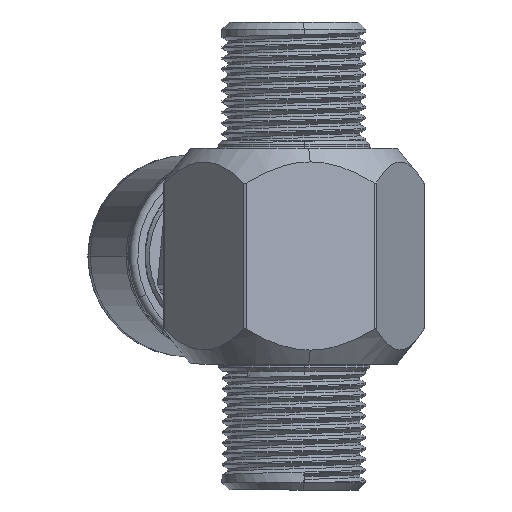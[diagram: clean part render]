
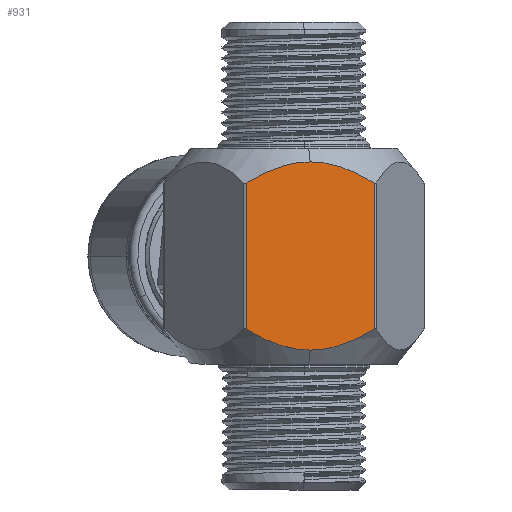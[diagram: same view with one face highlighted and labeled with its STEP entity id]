
A CAD part, front view. The second image highlights one B-rep face of the part: STEP entity #931.
In plain terms, the highlighted planar face has unit normal (0.143, -0.99, 0) as drawn and (1, 0, 0) by its records, which use the part's own axes.
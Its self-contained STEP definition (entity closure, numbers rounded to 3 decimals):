
#152 = VERTEX_POINT ( 'NONE', #13265 ) ;
#417 = CARTESIAN_POINT ( 'NONE',  ( 15.9, -2.002, 12.924 ) ) ;
#766 = B_SPLINE_CURVE_WITH_KNOTS ( 'NONE', 3,
 ( #5884, #9204, #18126, #7500, #7712, #9420, #18227, #417, #9523, #10922, #14483, #2564 ),
 .UNSPECIFIED., .F., .F.,
 ( 4, 2, 2, 2, 2, 4 ),
 ( 0.026, 0.029, 0.031, 0.033, 0.035, 0.036 ),
 .UNSPECIFIED. ) ;
#931 = ADVANCED_FACE ( 'NONE', ( #18893 ), #17399, .F. ) ;
#951 = CARTESIAN_POINT ( 'NONE',  ( 15.9, 3.156, 12.692 ) ) ;
#1167 = CARTESIAN_POINT ( 'NONE',  ( 15.9, 2.002, -12.924 ) ) ;
#1285 = CARTESIAN_POINT ( 'NONE',  ( 15.9, 6.156, -11.653 ) ) ;
#1706 = CARTESIAN_POINT ( 'NONE',  ( 15.9, 8.958, -33. ) ) ;
#1956 = VECTOR ( 'NONE', #8773, 1000. ) ;
#2106 = CARTESIAN_POINT ( 'NONE',  ( 15.9, -8.958, 10.137 ) ) ;
#2426 = EDGE_CURVE ( 'NONE', #11180, #152, #18333, .T. ) ;
#2445 = EDGE_LOOP ( 'NONE', ( #11733, #3083, #14176, #2892, #3754, #7109 ) ) ;
#2543 = CARTESIAN_POINT ( 'NONE',  ( 15.9, 0., 13.075 ) ) ;
#2564 = CARTESIAN_POINT ( 'NONE',  ( 15.9, 0., 13.075 ) ) ;
#2648 = CARTESIAN_POINT ( 'NONE',  ( 15.9, 3.181, -12.704 ) ) ;
#2704 = CARTESIAN_POINT ( 'NONE',  ( 15.9, -3.156, -12.692 ) ) ;
#2796 = CARTESIAN_POINT ( 'NONE',  ( 15.9, -8.958, -33. ) ) ;
#2871 = CARTESIAN_POINT ( 'NONE',  ( 15.9, 8.277, -10.555 ) ) ;
#2892 = ORIENTED_EDGE ( 'NONE', *, *, #21983, .F. ) ;
#2913 = AXIS2_PLACEMENT_3D ( 'NONE', #4939, #13849, #3110 ) ;
#3049 = CARTESIAN_POINT ( 'NONE',  ( 15.9, -0.794, -13.075 ) ) ;
#3083 = ORIENTED_EDGE ( 'NONE', *, *, #2426, .F. ) ;
#3110 = DIRECTION ( 'NONE',  ( 0., -1., 0. ) ) ;
#3344 = VERTEX_POINT ( 'NONE', #8957 ) ;
#3754 = ORIENTED_EDGE ( 'NONE', *, *, #7983, .F. ) ;
#4138 = CARTESIAN_POINT ( 'NONE',  ( 15.9, 0., -13.075 ) ) ;
#4257 = CARTESIAN_POINT ( 'NONE',  ( 15.9, 3.928, 12.483 ) ) ;
#4276 = B_SPLINE_CURVE_WITH_KNOTS ( 'NONE', 3,
 ( #18549, #2871, #11563, #1285, #6417, #11328, #2648, #1167, #13287, #11446, #16812, #18432 ),
 .UNSPECIFIED., .F., .F.,
 ( 4, 2, 2, 2, 2, 4 ),
 ( 0.026, 0.029, 0.031, 0.033, 0.035, 0.036 ),
 .UNSPECIFIED. ) ;
#4753 = CARTESIAN_POINT ( 'NONE',  ( 15.9, -4.307, -12.363 ) ) ;
#4939 = CARTESIAN_POINT ( 'NONE',  ( 15.9, -9.18, 15. ) ) ;
#5239 = LINE ( 'NONE', #1706, #1956 ) ;
#5884 = CARTESIAN_POINT ( 'NONE',  ( 15.9, -8.958, 10.137 ) ) ;
#6417 = CARTESIAN_POINT ( 'NONE',  ( 15.9, 5.43, -11.966 ) ) ;
#6472 = CARTESIAN_POINT ( 'NONE',  ( 15.9, 0., -13.075 ) ) ;
#7109 = ORIENTED_EDGE ( 'NONE', *, *, #11576, .F. ) ;
#7500 = CARTESIAN_POINT ( 'NONE',  ( 15.9, -6.156, 11.653 ) ) ;
#7712 = CARTESIAN_POINT ( 'NONE',  ( 15.9, -5.43, 11.966 ) ) ;
#7807 = CARTESIAN_POINT ( 'NONE',  ( 15.9, 7.581, 10.946 ) ) ;
#7983 = EDGE_CURVE ( 'NONE', #3344, #18178, #18579, .T. ) ;
#8024 = CARTESIAN_POINT ( 'NONE',  ( 15.9, 4.307, 12.363 ) ) ;
#8137 = CARTESIAN_POINT ( 'NONE',  ( 15.9, 2.762, 12.783 ) ) ;
#8476 = EDGE_CURVE ( 'NONE', #152, #20360, #22227, .T. ) ;
#8773 = DIRECTION ( 'NONE',  ( 0., 0., -1. ) ) ;
#8957 = CARTESIAN_POINT ( 'NONE',  ( 15.9, 0., 13.075 ) ) ;
#9204 = CARTESIAN_POINT ( 'NONE',  ( 15.9, -8.277, 10.555 ) ) ;
#9420 = CARTESIAN_POINT ( 'NONE',  ( 15.9, -3.943, 12.492 ) ) ;
#9523 = CARTESIAN_POINT ( 'NONE',  ( 15.9, -1.6, 12.981 ) ) ;
#10014 = CARTESIAN_POINT ( 'NONE',  ( 15.9, -3.928, -12.483 ) ) ;
#10922 = CARTESIAN_POINT ( 'NONE',  ( 15.9, -0.798, 13.056 ) ) ;
#11125 = CARTESIAN_POINT ( 'NONE',  ( 15.9, 1.584, 13. ) ) ;
#11180 = VERTEX_POINT ( 'NONE', #4138 ) ;
#11252 = DIRECTION ( 'NONE',  ( 0., 0., 1. ) ) ;
#11328 = CARTESIAN_POINT ( 'NONE',  ( 15.9, 3.943, -12.492 ) ) ;
#11446 = CARTESIAN_POINT ( 'NONE',  ( 15.9, 0.798, -13.056 ) ) ;
#11452 = CARTESIAN_POINT ( 'NONE',  ( 15.9, 0.794, 13.075 ) ) ;
#11563 = CARTESIAN_POINT ( 'NONE',  ( 15.9, 7.578, -10.948 ) ) ;
#11576 = EDGE_CURVE ( 'NONE', #20360, #3344, #766, .T. ) ;
#11725 = CARTESIAN_POINT ( 'NONE',  ( 15.9, -8.278, -10.554 ) ) ;
#11733 = ORIENTED_EDGE ( 'NONE', *, *, #8476, .F. ) ;
#12213 = VECTOR ( 'NONE', #11252, 1000. ) ;
#12219 = EDGE_CURVE ( 'NONE', #15160, #11180, #4276, .T. ) ;
#13265 = CARTESIAN_POINT ( 'NONE',  ( 15.9, -8.958, -10.137 ) ) ;
#13287 = CARTESIAN_POINT ( 'NONE',  ( 15.9, 1.6, -12.981 ) ) ;
#13849 = DIRECTION ( 'NONE',  ( -1., 0., 0. ) ) ;
#14096 = CARTESIAN_POINT ( 'NONE',  ( 15.9, 8.958, -10.137 ) ) ;
#14176 = ORIENTED_EDGE ( 'NONE', *, *, #12219, .F. ) ;
#14483 = CARTESIAN_POINT ( 'NONE',  ( 15.9, -0.399, 13.075 ) ) ;
#14783 = CARTESIAN_POINT ( 'NONE',  ( 15.9, 8.958, 10.137 ) ) ;
#14895 = CARTESIAN_POINT ( 'NONE',  ( 15.9, 5.431, 11.967 ) ) ;
#15160 = VERTEX_POINT ( 'NONE', #14096 ) ;
#16378 = CARTESIAN_POINT ( 'NONE',  ( 15.9, 6.158, 11.652 ) ) ;
#16538 = CARTESIAN_POINT ( 'NONE',  ( 15.9, -8.958, -10.137 ) ) ;
#16648 = CARTESIAN_POINT ( 'NONE',  ( 15.9, -2.762, -12.783 ) ) ;
#16812 = CARTESIAN_POINT ( 'NONE',  ( 15.9, 0.399, -13.075 ) ) ;
#17399 = PLANE ( 'NONE',  #2913 ) ;
#18126 = CARTESIAN_POINT ( 'NONE',  ( 15.9, -7.578, 10.948 ) ) ;
#18178 = VERTEX_POINT ( 'NONE', #20990 ) ;
#18227 = CARTESIAN_POINT ( 'NONE',  ( 15.9, -3.181, 12.704 ) ) ;
#18333 = B_SPLINE_CURVE_WITH_KNOTS ( 'NONE', 3,
 ( #6472, #3049, #18490, #16648, #2704, #10014, #4753, #19983, #20320, #22142, #11725, #16538 ),
 .UNSPECIFIED., .F., .F.,
 ( 4, 2, 2, 2, 2, 4 ),
 ( 0.036, 0.038, 0.039, 0.04, 0.043, 0.045 ),
 .UNSPECIFIED. ) ;
#18432 = CARTESIAN_POINT ( 'NONE',  ( 15.9, 0., -13.075 ) ) ;
#18490 = CARTESIAN_POINT ( 'NONE',  ( 15.9, -1.584, -13. ) ) ;
#18549 = CARTESIAN_POINT ( 'NONE',  ( 15.9, 8.958, -10.137 ) ) ;
#18579 = B_SPLINE_CURVE_WITH_KNOTS ( 'NONE', 3,
 ( #2543, #11452, #11125, #8137, #951, #4257, #8024, #14895, #16378, #7807, #20151, #14783 ),
 .UNSPECIFIED., .F., .F.,
 ( 4, 2, 2, 2, 2, 4 ),
 ( 0.036, 0.038, 0.039, 0.04, 0.043, 0.045 ),
 .UNSPECIFIED. ) ;
#18893 = FACE_OUTER_BOUND ( 'NONE', #2445, .T. ) ;
#19983 = CARTESIAN_POINT ( 'NONE',  ( 15.9, -5.431, -11.967 ) ) ;
#20151 = CARTESIAN_POINT ( 'NONE',  ( 15.9, 8.278, 10.554 ) ) ;
#20320 = CARTESIAN_POINT ( 'NONE',  ( 15.9, -6.158, -11.652 ) ) ;
#20360 = VERTEX_POINT ( 'NONE', #2106 ) ;
#20990 = CARTESIAN_POINT ( 'NONE',  ( 15.9, 8.958, 10.137 ) ) ;
#21983 = EDGE_CURVE ( 'NONE', #18178, #15160, #5239, .T. ) ;
#22142 = CARTESIAN_POINT ( 'NONE',  ( 15.9, -7.581, -10.946 ) ) ;
#22227 = LINE ( 'NONE', #2796, #12213 ) ;
